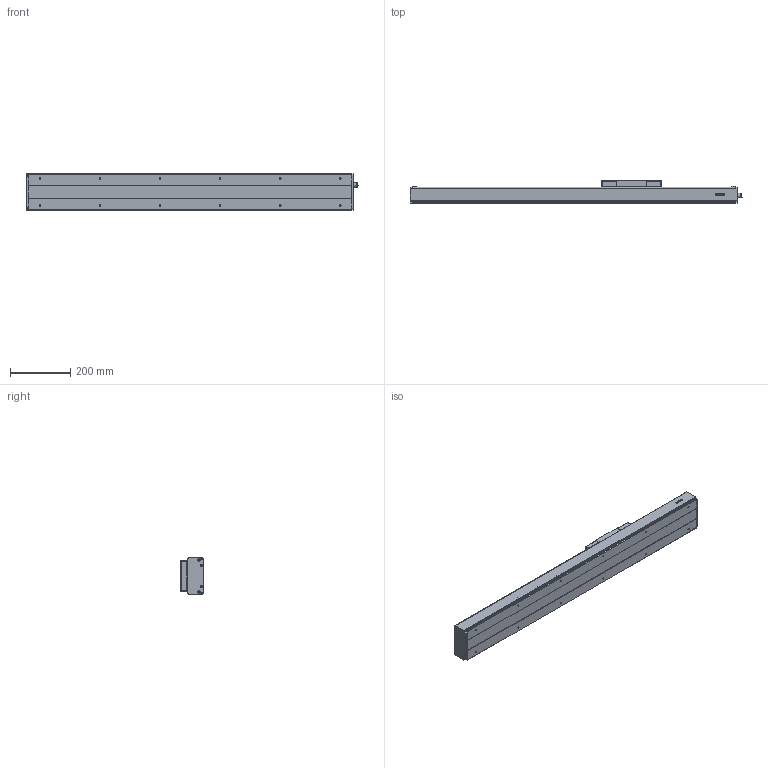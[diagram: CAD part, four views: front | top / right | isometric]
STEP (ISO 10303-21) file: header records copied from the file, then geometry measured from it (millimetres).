
FILE_DESCRIPTION(/* description */ (''),/* implementation_level */ '2;1');
FILE_NAME(/* name */ 'D:\混合母檔20191031\混和母檔\混和母檔\bin\Debug\Download\3D\KS120-20C-600AFI\KS120-20C-600AFI.stp',/* time_stamp */ '2019-11-04T15:24:47+08:00',/* author */ ('user'),/* organization */ (''),/* preprocessor_version */ 'ST-DEVELOPER v16.13',/* originating_system */ 'Autodesk Inventor 2018',/* authorisation */ '');
FILE_SCHEMA (('AUTOMOTIVE_DESIGN { 1 0 10303 214 3 1 1 }'));
Length unit declared in the file: millimetre
Products named in the file (3): KS120-20C-600AFI; KS120-FI; KS120-SL
Assembly tree (2 placements, depth 2):
  KS120-20C-600AFI
    KS120-FI
    KS120-SL
Bounding box: 1104.5 x 77 x 120 mm (x, y, z)
Volume: 2657364.5 mm3; surface area: 872586.1 mm2
Topology: 4 solids, 11 shells, 995 faces, 2555 edges, 1650 vertices
Faces by surface type: plane 575, cylinder 186, bspline 136, cone 80, torus 14, sphere 4
Full cylindrical faces by diameter (mm): 2.459 x6, 3.242 x4, 4 x32, 4.3 x4, 4.5 x12, 4.917 x12, 6 x6, 7 x4, 8 x9, 8.4 x12, 10.437 x1, 12 x2, 14 x1, 15 x1, 15.538 x1, 19 x1, 28 x1, 30 x1
Entity records: 33007 total; most frequent: CARTESIAN_POINT 10614, ORIENTED_EDGE 4558, DIRECTION 4167, EDGE_CURVE 2277, VERTEX_POINT 1568, LINE 1531, VECTOR 1531, AXIS2_PLACEMENT_3D 1318
